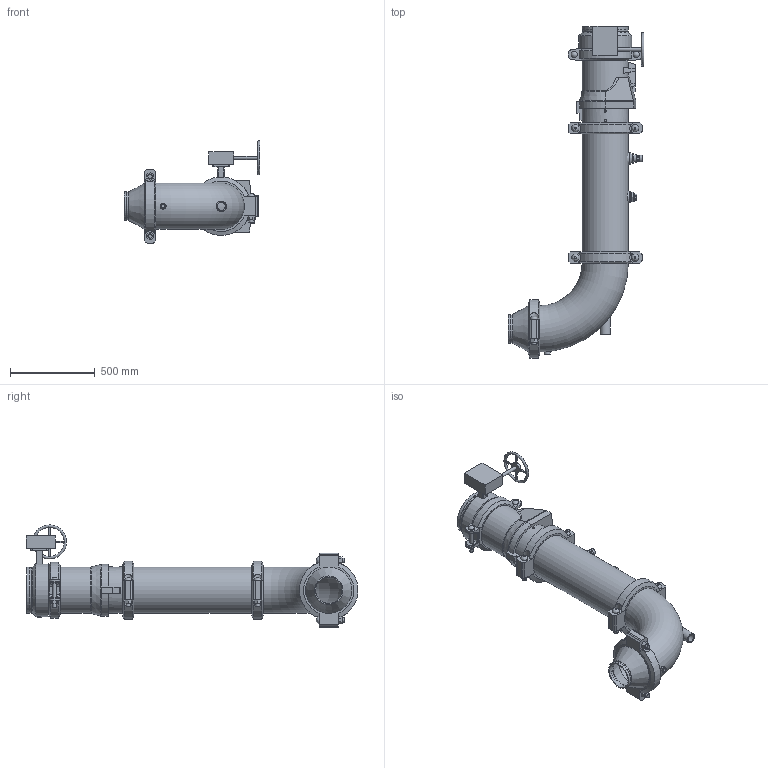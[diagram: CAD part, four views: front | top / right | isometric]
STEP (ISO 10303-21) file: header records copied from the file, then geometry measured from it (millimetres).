
FILE_DESCRIPTION(/* description */ ('VIC DVI PUMP DROP HORZ S/380G (OGSxOGS)','CAx-IF Rec.Pracs.---Representation and Presentation of Product Manufacturing Information (PMI)---4.0---2014-10-13'),/* implementation_level */ '2;1');
FILE_NAME(/* name */ 'C:\Users\kkamble\AppData\Roaming\Autodesk\ApplicationPlugins\Victaulic.Temp\A789\Victaulic_IPS_Horizontal DVI_CL 150_Series 380 (OGSxOGS)_924 (0.75)_10.0x06.0 (250x150).stp',/* time_stamp */ '2021-07-06T09:54:08+05:00',/* author */ ('Vjadhav'),/* organization */ ('Victaulic'),/* preprocessor_version */ 'ST-DEVELOPER v17.2',/* originating_system */ 'Autodesk Inventor 2019',/* authorisation */ '');
FILE_SCHEMA (('AP242_MANAGED_MODEL_BASED_3D_ENGINEERING_MIM_LF { 1 0 10303 442 1 1 4 }'));
Length unit declared in the file: inch
Products named in the file (10): 380_924 (0.75)-10.0x06.0; Pipe-10.0; 107N-10.0; 924-10.0x0.75; 923-10.0x0.75; 779-10.0; 761-10.0; 077-10.0; 100G-10.0; 050-10.0x06.0
Assembly tree (11 placements, depth 2):
  380_924 (0.75)-10.0x06.0
    Pipe-10.0
    107N-10.0
    924-10.0x0.75
    923-10.0x0.75
    779-10.0
    761-10.0
    077-10.0  x3
    100G-10.0
    050-10.0x06.0
Bounding box: 801.18 x 1959.6 x 603.11 mm (x, y, z)
Volume: 35191370.9 mm3; surface area: 5190984.5 mm2
Topology: 11 solids, 18 shells, 617 faces, 1545 edges, 1045 vertices
Faces by surface type: plane 349, cylinder 208, bspline 24, cone 24, torus 10, sphere 2
Full cylindrical faces by diameter (mm): 10.922 x4, 12.7 x1, 13.716 x4, 20.066 x1, 20.93 x1, 21.336 x1, 22.225 x4, 22.86 x1, 25.4 x12, 26.67 x4, 27.432 x6, 34.29 x1, 37.694 x2, 38.608 x1, 45.974 x4, 48.26 x1, 55.626 x2, 60.96 x1, 63.079 x1, 70.104 x1, 76.2 x1, 154.051 x1, 163.957 x1, 168.275 x2, 254.508 x6, 260.35 x1, 264.16 x3, 268.275 x9, 273.05 x23, 311.15 x1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
Entity records: 17357 total; most frequent: CARTESIAN_POINT 4049, DIRECTION 2710, ORIENTED_EDGE 2510, EDGE_CURVE 1255, AXIS2_PLACEMENT_3D 1036, VERTEX_POINT 849, LINE 638, VECTOR 638
